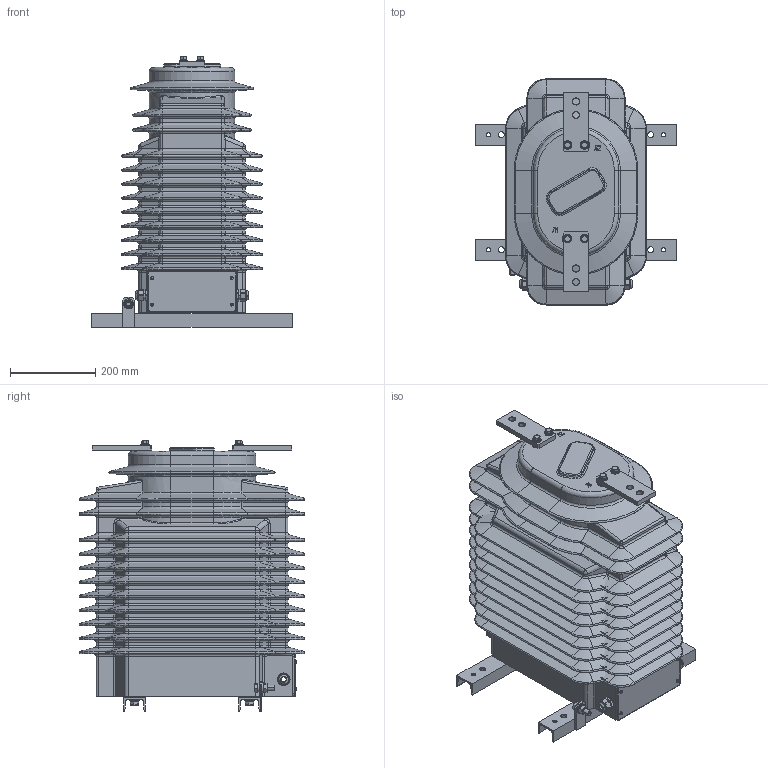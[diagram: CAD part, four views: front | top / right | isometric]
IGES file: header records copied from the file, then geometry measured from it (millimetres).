
Start section: IGES file generated from Kompas f.0 for Windows drawing by the IGES translator from Ascon Ltd., translator version IGESOUT-5.1.
Global section: file name: C:\Ðàáîòà\Èçâåùåíèÿ 5\ÒÎË-ÍÒÇ-35-IV-12 íîâûé ãàáàðèò\3D ñ íóëÿ\ÒÎË-ÍÒÇ-35-IV-12 ÓÕË1, Ò1.igs; native system: Kompas( 32 bit ) for Windows; preprocessor: 1.0; author: Ïîëüçîâàòåëü Windows; organization: Q; date: -17750423:045337; units: millimetre
Bounding box: 470 x 530 x 635 mm (x, y, z)
Volume: 54722004.4 mm3; surface area: 2608236.9 mm2
Topology: 48 solids, 48 shells, 2894 faces, 6501 edges, 3572 vertices
Faces by surface type: revolution 1965, bspline 929
